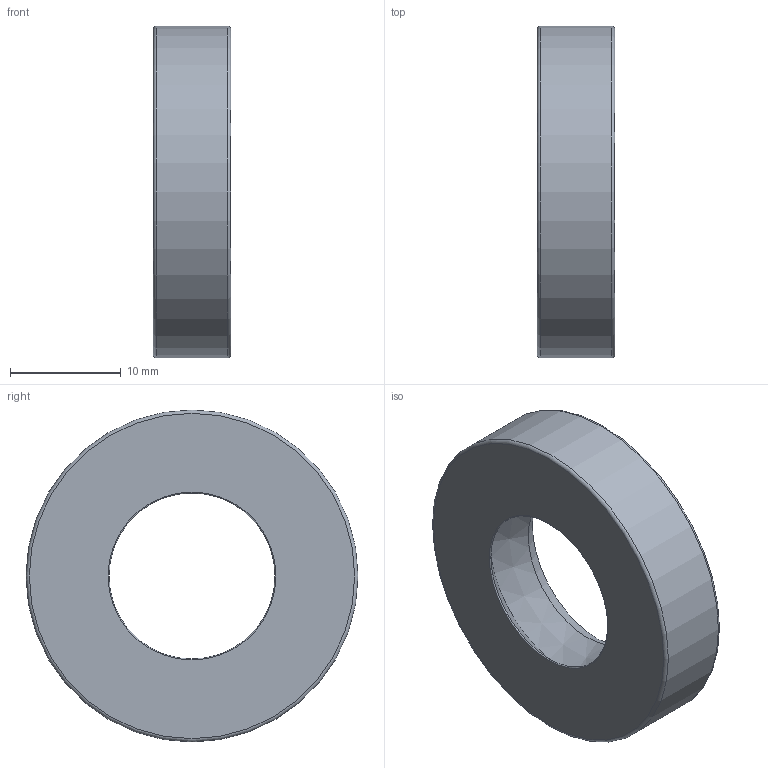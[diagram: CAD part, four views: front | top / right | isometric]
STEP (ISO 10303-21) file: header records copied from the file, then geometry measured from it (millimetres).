
FILE_DESCRIPTION(/* description */ ('오일-실'),/* implementation_level */ '2;1');
FILE_NAME(/* name */ '',/* time_stamp */ '2024-07-17T10:26:47+09:00',/* author */ ('jhkim'),/* organization */ (''),/* preprocessor_version */ 'ST-DEVELOPER v20',/* originating_system */ 'Autodesk Inventor 2025',/* authorisation */ '');
FILE_SCHEMA (('AUTOMOTIVE_DESIGN { 1 0 10303 214 3 1 1 }'));
Length unit declared in the file: millimetre
Products named in the file (1): 오일실 15 30 7
Bounding box: 7 x 30 x 30 mm (x, y, z)
Volume: 2096.9 mm3; surface area: 2785.2 mm2
Topology: 1 solids, 1 shells, 16 faces, 34 edges, 22 vertices
Faces by surface type: torus 5, plane 4, cone 4, cylinder 3
Full cylindrical faces by diameter (mm): 19.2 x1, 26.5 x1, 30 x1
Entity records: 496 total; most frequent: DIRECTION 95, CARTESIAN_POINT 73, ORIENTED_EDGE 68, AXIS2_PLACEMENT_3D 44, EDGE_CURVE 34, CIRCLE 27, VERTEX_POINT 22, EDGE_LOOP 20
